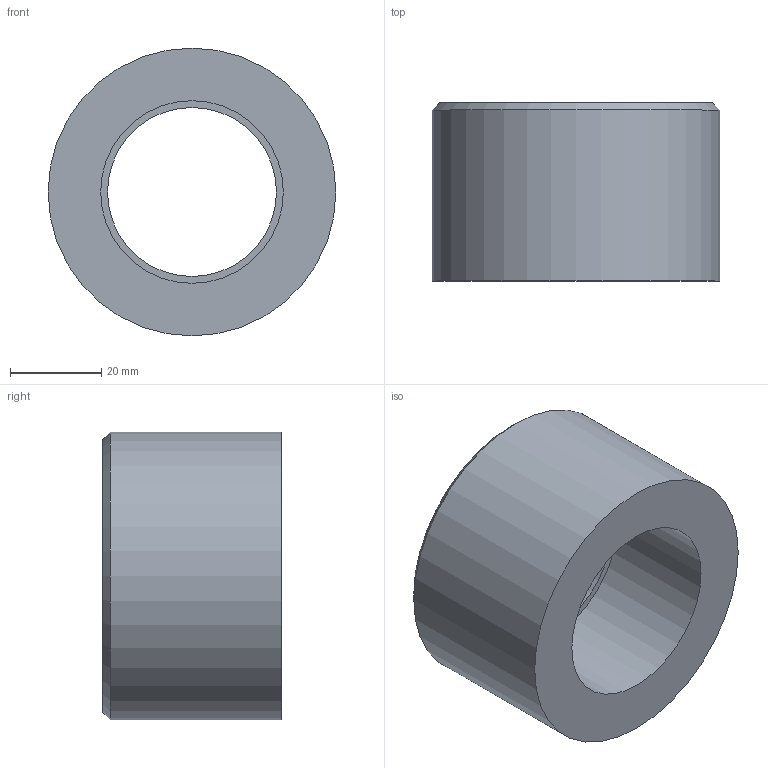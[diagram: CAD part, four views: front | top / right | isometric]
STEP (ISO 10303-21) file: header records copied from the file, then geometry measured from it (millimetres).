
FILE_DESCRIPTION(/* description */ ('PVC riduzione corta incollaggio metrica'),/* implementation_level */ '2;1');
FILE_NAME(/* name */ 'C:\Users\POLYPIPE\Desktop\DATASET INVENTOR\LIBRERIA EFFAST\RACCORDI 3DxWEB\RDR\3D_RDRRCD\3D_RDRRCD063E.stp',/* time_stamp */ '2018-01-19T15:31:13+01:00',/* author */ ('POLYPIPE'),/* organization */ ('Polypipe Italia s.r.l.'),/* preprocessor_version */ 'ST-DEVELOPER v16.1',/* originating_system */ 'Autodesk Inventor 2016',/* authorisation */ '');
FILE_SCHEMA (('CONFIG_CONTROL_DESIGN'));
Length unit declared in the file: millimetre
Products named in the file (1): 3D_RDRRCD
Bounding box: 63 x 39 x 63 mm (x, y, z)
Volume: 70869.6 mm3; surface area: 15958.6 mm2
Topology: 1 solids, 1 shells, 8 faces, 13 edges, 8 vertices
Faces by surface type: plane 3, cylinder 3, cone 2
Full cylindrical faces by diameter (mm): 37 x1, 40 x1, 63 x1
Entity records: 192 total; most frequent: DIRECTION 34, CARTESIAN_POINT 25, AXIS2_PLACEMENT_3D 17, EDGE_LOOP 16, ORIENTED_EDGE 16, FACE_BOUND 8, FACE_OUTER_BOUND 8, CIRCLE 8
